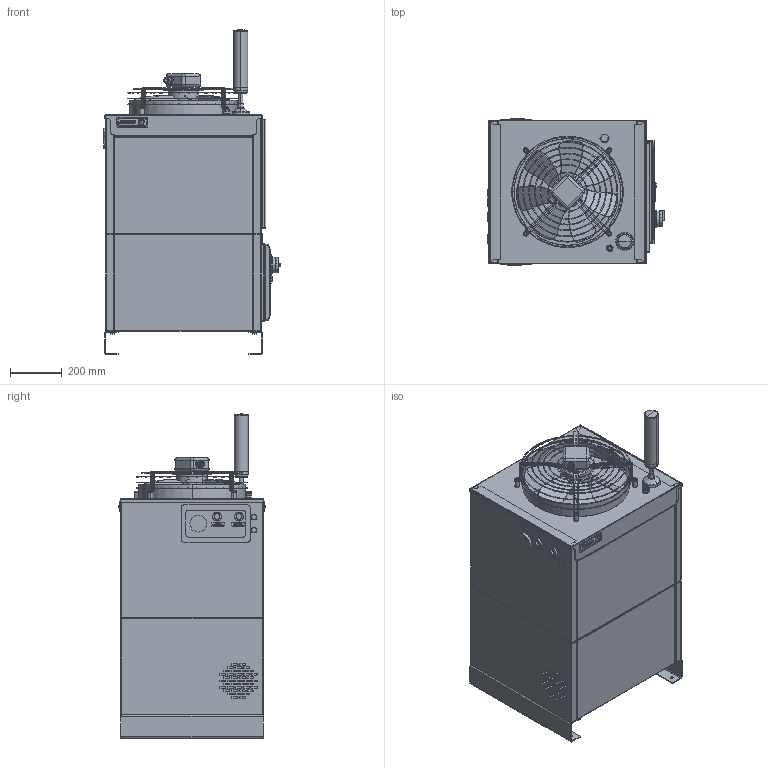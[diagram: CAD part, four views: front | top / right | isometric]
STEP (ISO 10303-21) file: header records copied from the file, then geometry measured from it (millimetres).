
FILE_DESCRIPTION (( 'STEP AP214' ), '1' );
FILE_NAME ('ga-80010-900.STEP', '2015-01-09T20:47:25', ( 'OSUser' ), ( '' ), 'SwSTEP 2.0', 'SolidWorks 2012', '' );
FILE_SCHEMA (( 'AUTOMOTIVE_DESIGN' ));
Length unit declared in the file: millimetre
Products named in the file (1): ga-80010-900
Bounding box: 682.5 x 563.78 x 1251.61 mm (x, y, z)
Volume: 26250547.6 mm3; surface area: 8338319.7 mm2
Topology: 71 solids, 72 shells, 4747 faces, 12344 edges, 7978 vertices
Faces by surface type: plane 2572, bspline 1240, cylinder 727, torus 144, cone 54, sphere 10
Entity records: 423931 total; most frequent: CARTESIAN_POINT 264925, ORIENTED_EDGE 24644, DIRECTION 16656, EDGE_CURVE 12322, VERTEX_POINT 7978, VECTOR 6962, LINE 6962, EDGE_LOOP 5352
